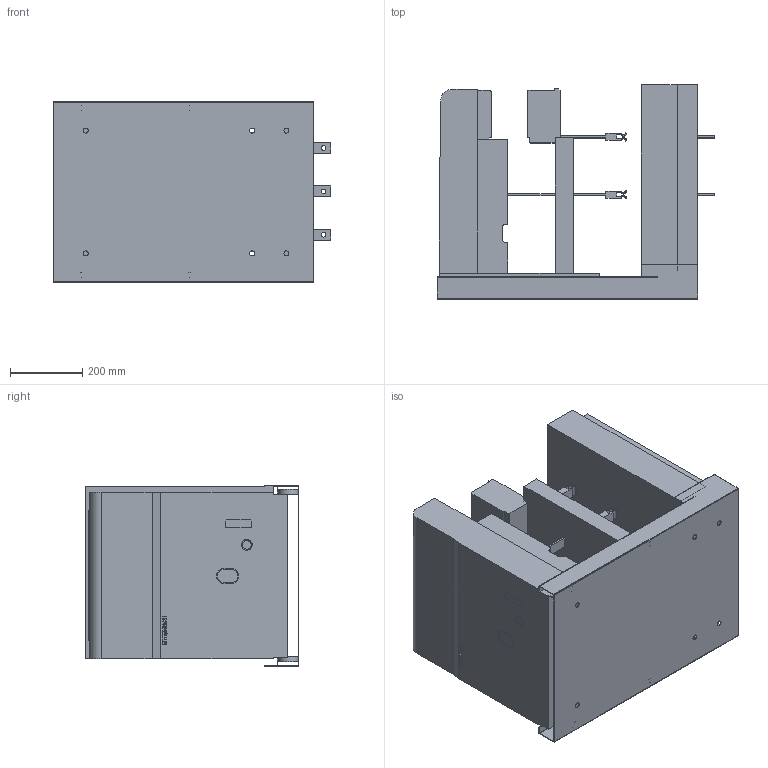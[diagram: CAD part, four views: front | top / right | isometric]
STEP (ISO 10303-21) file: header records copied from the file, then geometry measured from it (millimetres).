
FILE_DESCRIPTION(('STEP AP214'), '1');
FILE_NAME('Âûäâèæíîå èñïîëíåíèå 3,6_7,2êÂ, êîðçèíà êëàññà E_F (D1)', '', ('UNSPECIFIED'), ('UNSPECIFIED'), 'ASCON STEP Converter 1.3', 'ASCON Math Kernel', '');
FILE_SCHEMA(('AUTOMOTIVE_DESIGN { 1 0 10303 214 3 1 1}'));
Length unit declared in the file: millimetre
Bounding box: 767.57 x 591.84 x 500.01 mm (x, y, z)
Volume: 97704657.8 mm3; surface area: 3596153.6 mm2
Topology: 2 solids, 2 shells, 383 faces, 1048 edges, 692 vertices
Faces by surface type: plane 293, cylinder 64, extrusion 26
Full cylindrical faces by diameter (mm): 13 x6, 14 x6, 24 x1, 30 x1, 54 x4
Entity records: 15115 total; most frequent: CARTESIAN_POINT 2262, ORIENTED_EDGE 2060, DIRECTION 1857, EDGE_CURVE 1030, VECTOR 867, LINE 841, VERTEX_POINT 692, AXIS2_PLACEMENT_3D 495
